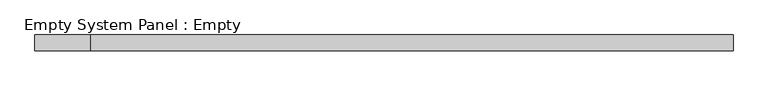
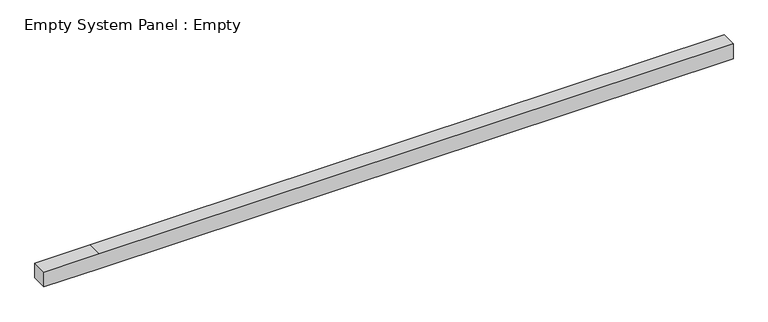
"""IFC4 building model written with IfcOpenShell, lengths in millimetres: plate geometry, Empty System Panel : Empty."""

from ifc_helpers import new_model, si_unit, frame, origin, place, context, project, spatial, polyline, outline, extrude, source, transform, mapped, element, save


def empty_system_panel_empty_ffddd02d(model_context):
    return source(origin(), model_context, "Body", "SweptSolid", [
        extrude(outline(polyline([(0.0, -2201.25), (0.0, -1848.75), (0.0, 2201.25), (100.0, 2201.25), (100.0, -1848.75), (100.0, -2201.25), (0.0, -2201.25)])), frame((0.0, -50.0, 0.0), z_axis=(0.0, 1.0, 0.0), x_axis=(0.0, 0.0, 1.0)), (0.0, 0.0, 1.0), 100.0),
    ])


if __name__ == "__main__":
    model = new_model("IFC4")
    model_context = context("Model", 3, world=origin())
    ifc_project = project(units=[si_unit("LENGTHUNIT", "METRE", prefix="MILLI")], contexts=[model_context])
    site = spatial("IfcSite", under=ifc_project)
    building = spatial("IfcBuilding", under=site)
    placement = place(None, origin())
    empty_system_panel_empty_shape = empty_system_panel_empty_ffddd02d(model_context)
    element("IfcPlate", 1, ObjectType="Empty System Panel : Empty", at=placement, inside=building, context=model_context, shape_type="MappedRepresentation", body=[
        mapped(empty_system_panel_empty_shape, transform((0.0, 0.0, 0.0), x_axis=(1.0, 0.0, 0.0), y_axis=(0.0, 1.0, 0.0), z_axis=(0.0, 0.0, 1.0))),
    ])
    save(model, "model.ifc")
